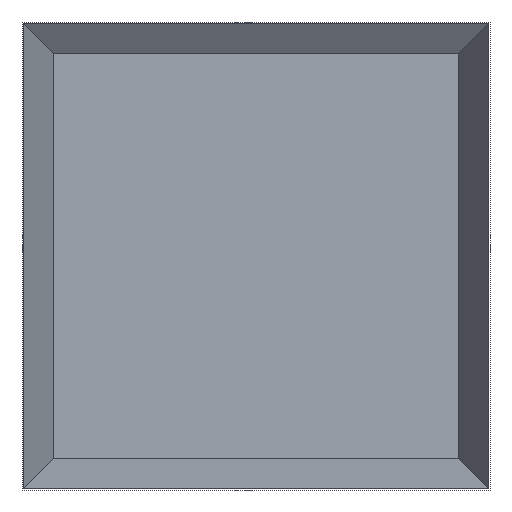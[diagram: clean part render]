
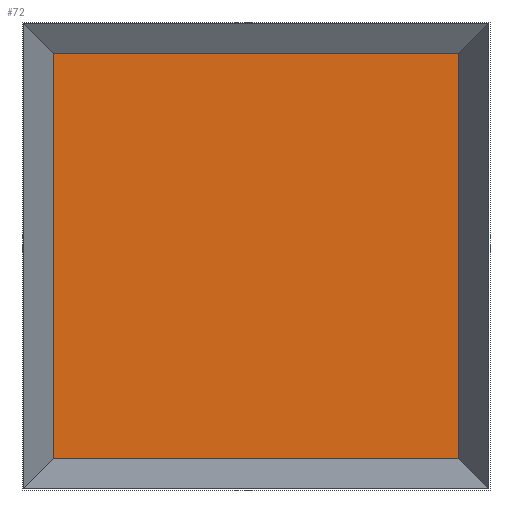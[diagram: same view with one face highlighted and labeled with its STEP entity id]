
A CAD part, front view. The second image highlights one B-rep face of the part: STEP entity #72.
In plain terms, the highlighted planar face has unit normal (0, -1, 0).
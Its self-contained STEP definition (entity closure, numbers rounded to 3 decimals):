
#1=DIRECTION('',(-0.707,0.,0.707));
#2=VECTOR('',#1,4.243);
#3=CARTESIAN_POINT('',(-136.,497.887,-139.));
#4=LINE('',#3,#2);
#5=DIRECTION('',(0.,0.,1.));
#6=VECTOR('',#5,272.);
#7=CARTESIAN_POINT('',(-139.,497.887,-136.));
#8=LINE('',#7,#6);
#9=DIRECTION('',(0.707,0.,0.707));
#10=VECTOR('',#9,4.243);
#11=CARTESIAN_POINT('',(-139.,497.887,136.));
#12=LINE('',#11,#10);
#13=DIRECTION('',(1.,0.,0.));
#14=VECTOR('',#13,272.);
#15=CARTESIAN_POINT('',(-136.,497.887,139.));
#16=LINE('',#15,#14);
#17=DIRECTION('',(0.707,0.,-0.707));
#18=VECTOR('',#17,4.243);
#19=CARTESIAN_POINT('',(136.,497.887,139.));
#20=LINE('',#19,#18);
#21=DIRECTION('',(0.,0.,-1.));
#22=VECTOR('',#21,272.);
#23=CARTESIAN_POINT('',(139.,497.887,136.));
#24=LINE('',#23,#22);
#25=DIRECTION('',(-0.707,0.,-0.707));
#26=VECTOR('',#25,4.243);
#27=CARTESIAN_POINT('',(139.,497.887,-136.));
#28=LINE('',#27,#26);
#29=DIRECTION('',(-1.,0.,0.));
#30=VECTOR('',#29,272.);
#31=CARTESIAN_POINT('',(136.,497.887,-139.));
#32=LINE('',#31,#30);
#33=CARTESIAN_POINT('',(-136.,497.887,-139.));
#34=CARTESIAN_POINT('',(-139.,497.887,-136.));
#35=VERTEX_POINT('',#33);
#36=VERTEX_POINT('',#34);
#37=CARTESIAN_POINT('',(-139.,497.887,136.));
#38=VERTEX_POINT('',#37);
#39=CARTESIAN_POINT('',(-136.,497.887,139.));
#40=VERTEX_POINT('',#39);
#41=CARTESIAN_POINT('',(136.,497.887,139.));
#42=VERTEX_POINT('',#41);
#43=CARTESIAN_POINT('',(139.,497.887,136.));
#44=VERTEX_POINT('',#43);
#45=CARTESIAN_POINT('',(139.,497.887,-136.));
#46=VERTEX_POINT('',#45);
#47=CARTESIAN_POINT('',(136.,497.887,-139.));
#48=VERTEX_POINT('',#47);
#49=CARTESIAN_POINT('',(0.,497.887,0.));
#50=DIRECTION('',(0.,1.,0.));
#51=DIRECTION('',(1.,0.,0.));
#52=AXIS2_PLACEMENT_3D('',#49,#50,#51);
#53=PLANE('',#52);
#55=ORIENTED_EDGE('',*,*,#54,.T.);
#57=ORIENTED_EDGE('',*,*,#56,.T.);
#59=ORIENTED_EDGE('',*,*,#58,.T.);
#61=ORIENTED_EDGE('',*,*,#60,.T.);
#63=ORIENTED_EDGE('',*,*,#62,.T.);
#65=ORIENTED_EDGE('',*,*,#64,.T.);
#67=ORIENTED_EDGE('',*,*,#66,.T.);
#69=ORIENTED_EDGE('',*,*,#68,.T.);
#70=EDGE_LOOP('',(#55,#57,#59,#61,#63,#65,#67,#69));
#71=FACE_OUTER_BOUND('',#70,.F.);
#72=ADVANCED_FACE('',(#71),#53,.F.);
#54=EDGE_CURVE('',#35,#36,#4,.T.);
#56=EDGE_CURVE('',#36,#38,#8,.T.);
#58=EDGE_CURVE('',#38,#40,#12,.T.);
#60=EDGE_CURVE('',#40,#42,#16,.T.);
#62=EDGE_CURVE('',#42,#44,#20,.T.);
#64=EDGE_CURVE('',#44,#46,#24,.T.);
#66=EDGE_CURVE('',#46,#48,#28,.T.);
#68=EDGE_CURVE('',#48,#35,#32,.T.);
